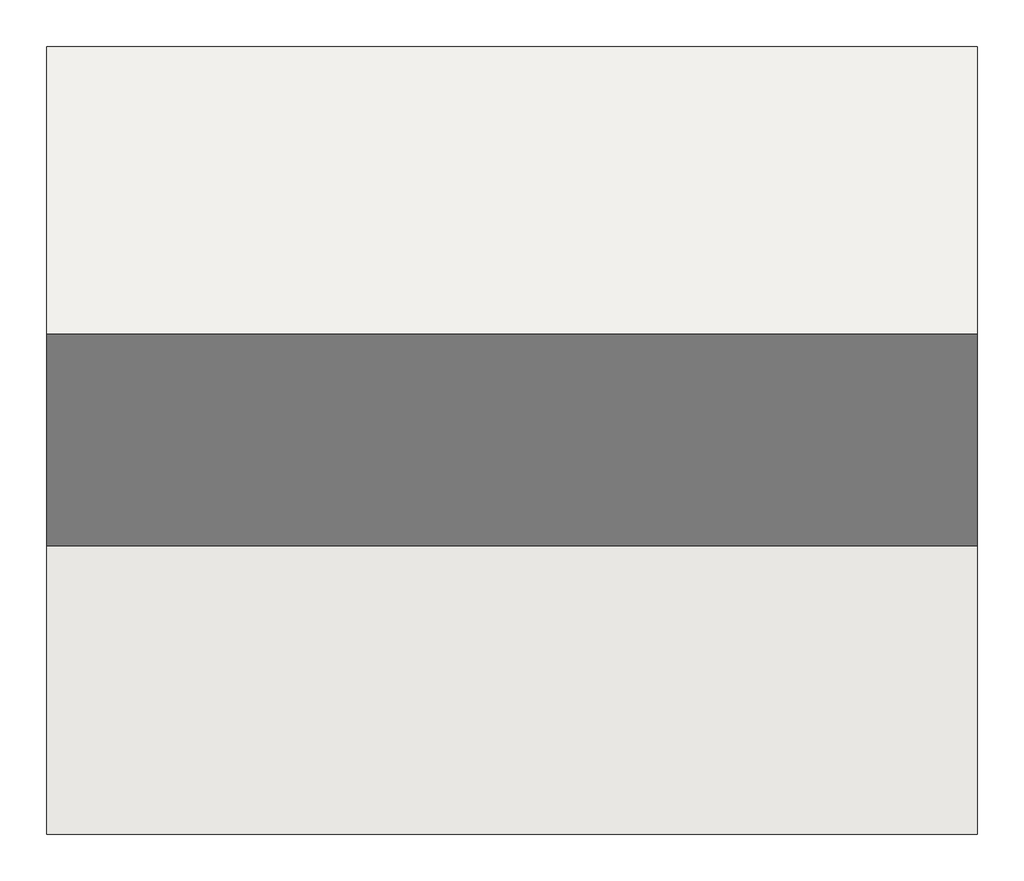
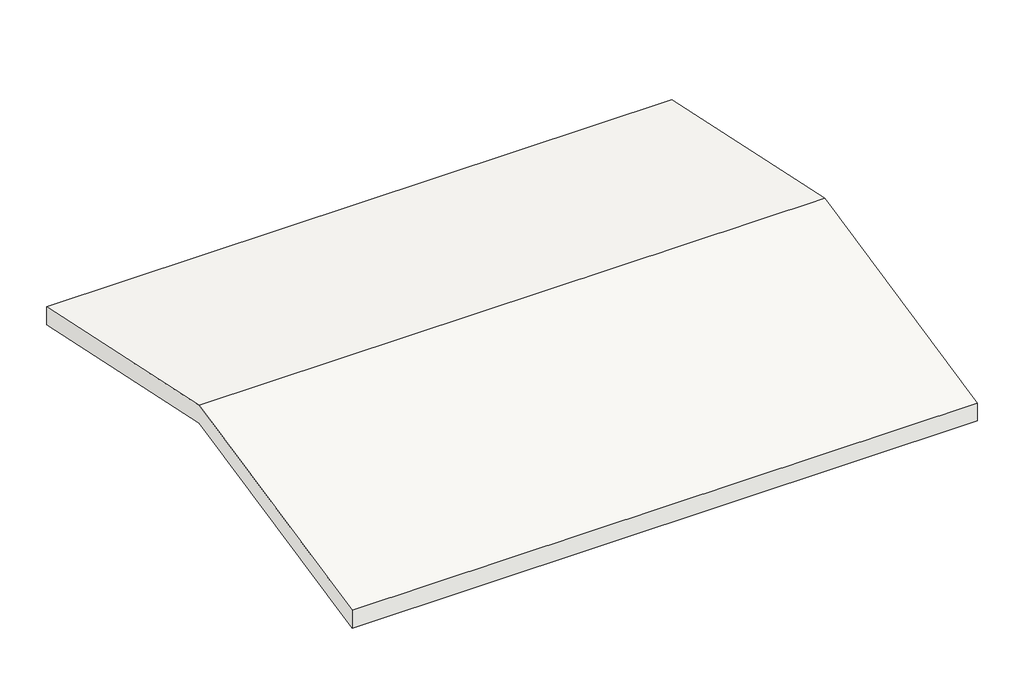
# One storey: 1 roof.
"""IFC4 building model written with IfcOpenShell, lengths in millimetres."""

import ifcopenshell
import ifcopenshell.guid

model = None  # the IFC model being written
_history = None  # IfcOwnerHistory: only IFC2X3 demands one
_inside = {}  # id of a spatial element -> (the spatial element, [elements in it])
_under = {}  # id of a project, library or spatial element -> (it, [spatial elements below it])
_declared = {}  # id of a project -> (the project, [libraries it declares])
_typed = {}  # id of a type object -> (the type object, [elements of that type])
_made_of = {}  # id of a material, layer set ... -> (it, [elements and type objects made of it])


def new_model(schema):
    """Start an empty IFC model of exactly this schema.

    Asked for "IFC4X3", IfcOpenShell would pick the latest addendum, in which some entities
    have other attributes; the version numbers below select the first issue.
    IFC2X3 requires an IfcOwnerHistory on every rooted entity: one is made here for all.
    """
    global model, _history
    if schema == "IFC4X3":
        model = ifcopenshell.file(schema_version=(4, 3, 0, 0))
    else:
        model = ifcopenshell.file(schema=schema)
    _inside.clear()
    _under.clear()
    _declared.clear()
    _typed.clear()
    _made_of.clear()
    _history = None
    if model.schema == "IFC2X3":
        org = make("IfcOrganization", Name="unknown")
        user = make(
            "IfcPersonAndOrganization",
            ThePerson=make("IfcPerson", FamilyName="unknown"),
            TheOrganization=org,
        )
        app = make(
            "IfcApplication",
            ApplicationDeveloper=org,
            Version="unknown",
            ApplicationFullName="unknown",
            ApplicationIdentifier="unknown",
        )
        _history = make(
            "IfcOwnerHistory",
            OwningUser=user,
            OwningApplication=app,
            ChangeAction="ADDED",
            CreationDate=0,
        )
    return model


def make(cls, **values):
    """One entity of the class cls with the attributes given. An attribute that is None is left unset."""
    return model.create_entity(
        cls, **{name: value for name, value in values.items() if value is not None}
    )


def rooted(cls, **values):
    """An entity with a GlobalId (a new one), such as an element, a storey or a relation."""
    return make(cls, GlobalId=ifcopenshell.guid.new(), OwnerHistory=_history, **values)


def si_unit(unit_type, name, prefix=None):
    """IfcSIUnit, for example si_unit("LENGTHUNIT", "METRE", prefix="MILLI")."""
    return make("IfcSIUnit", UnitType=unit_type, Prefix=prefix, Name=name)


def assignment(units):
    """IfcUnitAssignment: the units of a project."""
    return None if units is None else make("IfcUnitAssignment", Units=units)


def point(xyz):
    """IfcCartesianPoint."""
    return None if xyz is None else make("IfcCartesianPoint", Coordinates=xyz)


def direction(xyz):
    """IfcDirection."""
    return None if xyz is None else make("IfcDirection", DirectionRatios=xyz)


def frame(location, z_axis=None, x_axis=None):
    """IfcAxis2Placement3D, a coordinate frame: its origin and axes. An axis left out is left unset."""
    return make(
        "IfcAxis2Placement3D",
        Location=point(location),
        Axis=direction(z_axis),
        RefDirection=direction(x_axis),
    )


def origin():
    """The frame at (0, 0, 0) with its axes left unset."""
    return frame((0.0, 0.0, 0.0))


def place(relative_to, where):
    """IfcLocalPlacement: puts the frame where relative to a parent placement (None: the world)."""
    return make(
        "IfcLocalPlacement", PlacementRelTo=relative_to, RelativePlacement=where
    )


def context(
    kind, dimensions, precision=None, world=None, true_north=None, identifier=None
):
    """IfcGeometricRepresentationContext, for example the 3D "Model" context."""
    return make(
        "IfcGeometricRepresentationContext",
        ContextIdentifier=identifier,
        ContextType=kind,
        CoordinateSpaceDimension=dimensions,
        Precision=precision,
        WorldCoordinateSystem=world,
        TrueNorth=true_north,
    )


def project(units=None, contexts=None):
    """IfcProject with its units and contexts."""
    return rooted(
        "IfcProject",
        Name="project",
        RepresentationContexts=contexts,
        UnitsInContext=assignment(units),
    )


def spatial(cls, under=None, at=None, **own):
    """A site, building, storey or space (cls), placed at a placement, below another one or the project."""
    s = rooted(cls, ObjectPlacement=at, **own)
    if under is not None:
        _under.setdefault(under.id(), (under, []))[1].append(s)
    return s


def polyline(points):
    """IfcPolyline through the points."""
    return make("IfcPolyline", Points=[point(p) for p in points])


def outline(outer, holes=None, kind="AREA"):
    """IfcArbitraryClosedProfileDef: a profile drawn as a closed curve; with holes, ...WithVoids."""
    if holes is None:
        return make("IfcArbitraryClosedProfileDef", ProfileType=kind, OuterCurve=outer)
    return make(
        "IfcArbitraryProfileDefWithVoids",
        ProfileType=kind,
        OuterCurve=outer,
        InnerCurves=holes,
    )


def extrude(swept, where, along, depth):
    """IfcExtrudedAreaSolid: the profile swept, set in the frame where, extruded along a direction by depth."""
    return make(
        "IfcExtrudedAreaSolid",
        SweptArea=swept,
        Position=where,
        ExtrudedDirection=direction(along),
        Depth=depth,
    )


def shape(context_of_items, identifier, shape_type, items):
    """IfcShapeRepresentation: the items that make up one representation, for example the "Body"."""
    return make(
        "IfcShapeRepresentation",
        ContextOfItems=context_of_items,
        RepresentationIdentifier=identifier,
        RepresentationType=shape_type,
        Items=items,
    )


def made_of(thing, what):
    """Note that an element or type object is made of a material, layer set ...; save() writes the relation."""
    if what is not None:
        _made_of.setdefault(what.id(), (what, []))[1].append(thing)
    return thing


def element(
    cls,
    number,
    at=None,
    inside=None,
    cuts=None,
    type_object=None,
    material=None,
    context=None,
    identifier="Body",
    shape_type=None,
    held_by="IfcProductDefinitionShape",
    body=None,
    shapes=None,
    **own,
):
    """One element of the class cls, such as IfcWall. Its Tag is "e" and its number.

    at: its placement. inside: the storey or other place that contains it. cuts: it is an
    opening in that element (IfcRelVoidsElement). A single representation is given by context,
    identifier, shape_type and body (its items); several are given by shapes. held_by: the class
    of the entity that holds the representations. save() writes the other relations.
    """
    e = rooted(cls, Tag="e%d" % number, ObjectPlacement=at, **own)
    if body is not None:
        shapes = [shape(context, identifier, shape_type, body)]
    if shapes is not None:
        e.Representation = make(held_by, Representations=shapes)
    if inside is not None:
        _inside.setdefault(inside.id(), (inside, []))[1].append(e)
    if cuts is not None:
        rooted(
            "IfcRelVoidsElement", RelatingBuildingElement=cuts, RelatedOpeningElement=e
        )
    if type_object is not None:
        _typed.setdefault(type_object.id(), (type_object, []))[1].append(e)
    return made_of(e, material)


def aggregate(whole, parts):
    """IfcRelAggregates: a whole, such as a stair, and the parts it consists of."""
    return rooted("IfcRelAggregates", RelatingObject=whole, RelatedObjects=parts)


def save(model, path):
    """Write the relations noted so far, then the file.

    IfcRelAggregates (storeys below a building ...), IfcRelContainedInSpatialStructure (elements
    in a storey), IfcRelDefinesByType, IfcRelAssociatesMaterial and IfcRelDeclares: one each for
    every whole, place, type object, material and project.
    """
    for whole, parts in _under.values():
        aggregate(whole, parts)
    for where, things in _inside.values():
        rooted(
            "IfcRelContainedInSpatialStructure",
            RelatedElements=things,
            RelatingStructure=where,
        )
    for kind, things in _typed.values():
        rooted("IfcRelDefinesByType", RelatedObjects=things, RelatingType=kind)
    for what, things in _made_of.values():
        rooted("IfcRelAssociatesMaterial", RelatedObjects=things, RelatingMaterial=what)
    for by, libraries in _declared.values():
        rooted("IfcRelDeclares", RelatingContext=by, RelatedDefinitions=libraries)
    model.write(path)


model = new_model("IFC4")

# Units and contexts
model_context = context("Model", 3, world=origin())
ifc_project = project(units=[si_unit("LENGTHUNIT", "METRE", prefix="MILLI")], contexts=[model_context])

# Site, building, storey
site = spatial("IfcSite", under=ifc_project)
building = spatial("IfcBuilding", under=site)
storey = spatial("IfcBuildingStorey", under=building, Name="Střecha", Elevation=8000.0)

# Roof
placement = place(None, origin())
element("IfcRoof", 1, ObjectType="Generic - 400mm", at=placement, inside=storey, context=model_context, shape_type="SweptSolid", body=[
    extrude(outline(polyline([(-5658.8644596, 8302.6579571), (116.1355404, 9530.1721008), (5891.1355404, 8302.6579571), (5891.1355404, 7893.7217192), (116.1355404, 9121.2358628), (-5658.8644596, 7893.7217192), (-5658.8644596, 8302.6579571)])), frame((-5294.6034563, 0.0, 0.0), z_axis=(1.0, 0.0, 0.0), x_axis=(0.0, 1.0, 0.0)), (0.0, 0.0, 1.0), 13650.0),
])

save(model, "model.ifc")
